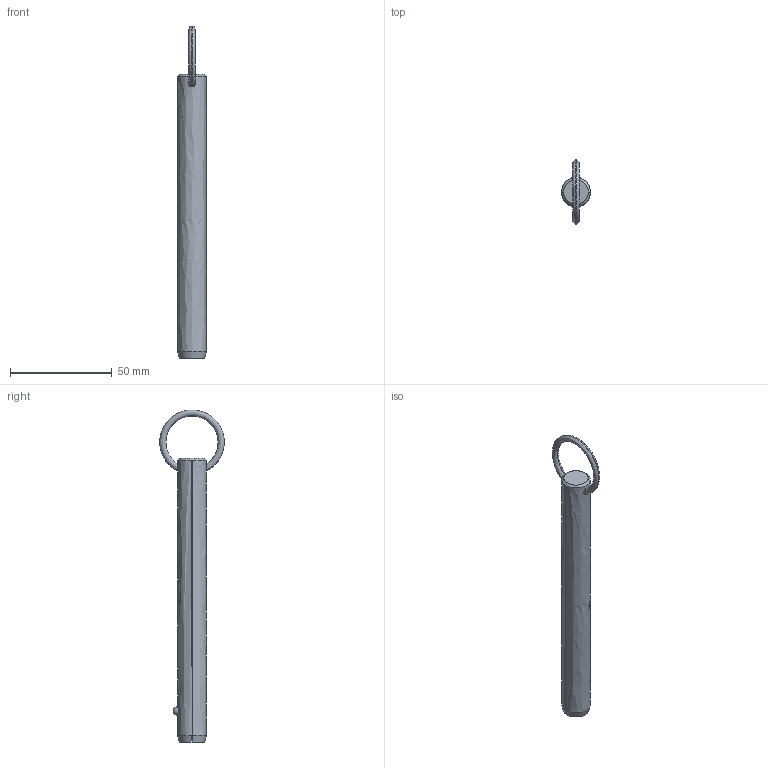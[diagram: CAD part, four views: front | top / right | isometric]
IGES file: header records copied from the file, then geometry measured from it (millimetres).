
Start section: SolidWorks IGES file using analytic representation for surfaces
Global section: file name: C:\Users\liam_\OneDrive\Documents\WORK\Work for WixRoyd\Job Files\J-00019 - Matt Davis CAD Checking\04. CAD Drawings\automotion20190605\P1250.2_v2\P1250.2_v2_20190729_IGES\P1250.056-450.igs; native system: SolidWorks 2017; preprocessor: SolidWorks 2017; author: liam_; date: 190729.232321; units: millimetre
Bounding box: 14.2 x 31.69 x 163.39 mm (x, y, z)
Surface area: 7193.5 mm2 (no closed solid volume)
Topology: 0 solids, 0 shells, 12 faces, 285 edges, 283 vertices
Faces by surface type: revolution 8, bspline 4
